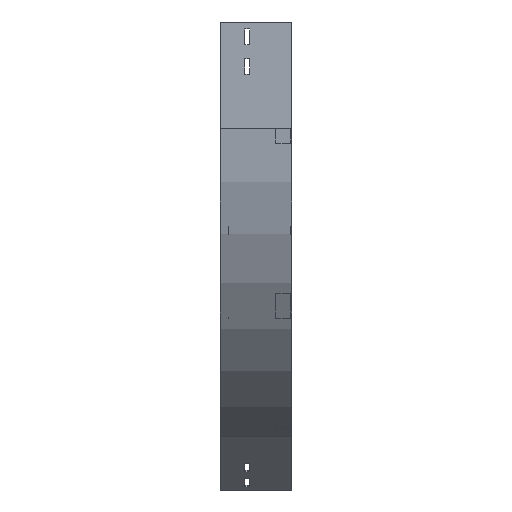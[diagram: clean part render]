
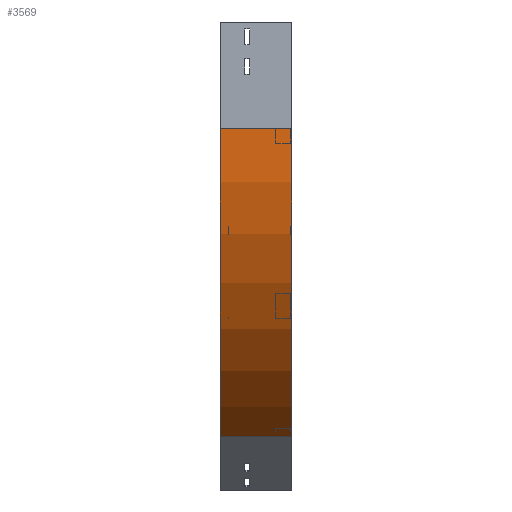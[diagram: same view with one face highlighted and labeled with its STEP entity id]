
A CAD part, left-side view. The second image highlights one B-rep face of the part: STEP entity #3569.
In plain terms, the highlighted cylindrical face has radius 500 mm (diameter 1000 mm), a partial arc.
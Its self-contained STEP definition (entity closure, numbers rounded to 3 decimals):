
#121 = CYLINDRICAL_SURFACE ( 'NONE', #1778, 500. ) ;
#159 = VERTEX_POINT ( 'NONE', #1616 ) ;
#388 = ORIENTED_EDGE ( 'NONE', *, *, #2956, .T. ) ;
#535 = ORIENTED_EDGE ( 'NONE', *, *, #1843, .F. ) ;
#587 = CIRCLE ( 'NONE', #2889, 500. ) ;
#597 = EDGE_CURVE ( 'NONE', #2834, #159, #1311, .T. ) ;
#812 = DIRECTION ( 'NONE',  ( 0., 0., -1. ) ) ;
#942 = DIRECTION ( 'NONE',  ( -1., 0., 0. ) ) ;
#990 = DIRECTION ( 'NONE',  ( 0., -1., 0. ) ) ;
#1155 = DIRECTION ( 'NONE',  ( 0., -1., 0. ) ) ;
#1238 = DIRECTION ( 'NONE',  ( 0., -1., 0. ) ) ;
#1311 = LINE ( 'NONE', #1630, #2674 ) ;
#1616 = CARTESIAN_POINT ( 'NONE',  ( 0., 0., -150. ) ) ;
#1630 = CARTESIAN_POINT ( 'NONE',  ( 0., 0., -150. ) ) ;
#1778 = AXIS2_PLACEMENT_3D ( 'NONE', #3100, #2229, #812 ) ;
#1779 = VERTEX_POINT ( 'NONE', #3761 ) ;
#1826 = AXIS2_PLACEMENT_3D ( 'NONE', #2819, #1238, #942 ) ;
#1843 = EDGE_CURVE ( 'NONE', #159, #3791, #587, .T. ) ;
#1849 = EDGE_LOOP ( 'NONE', ( #535, #3697, #388, #2813 ) ) ;
#2198 = DIRECTION ( 'NONE',  ( 0., -1., 0. ) ) ;
#2229 = DIRECTION ( 'NONE',  ( 0., -1., 0. ) ) ;
#2348 = DIRECTION ( 'NONE',  ( -1., 0., 0. ) ) ;
#2596 = FACE_OUTER_BOUND ( 'NONE', #1849, .T. ) ;
#2674 = VECTOR ( 'NONE', #2198, 1000. ) ;
#2813 = ORIENTED_EDGE ( 'NONE', *, *, #3552, .T. ) ;
#2819 = CARTESIAN_POINT ( 'NONE',  ( 500., 100., -150. ) ) ;
#2834 = VERTEX_POINT ( 'NONE', #3637 ) ;
#2889 = AXIS2_PLACEMENT_3D ( 'NONE', #3824, #1155, #2348 ) ;
#2956 = EDGE_CURVE ( 'NONE', #2834, #1779, #3505, .T. ) ;
#3029 = CARTESIAN_POINT ( 'NONE',  ( 250., 0., -583.013 ) ) ;
#3081 = CARTESIAN_POINT ( 'NONE',  ( 250., 0., -583.013 ) ) ;
#3100 = CARTESIAN_POINT ( 'NONE',  ( 500., 0., -150. ) ) ;
#3411 = LINE ( 'NONE', #3081, #3636 ) ;
#3505 = CIRCLE ( 'NONE', #1826, 500. ) ;
#3552 = EDGE_CURVE ( 'NONE', #1779, #3791, #3411, .T. ) ;
#3569 = ADVANCED_FACE ( 'NONE', ( #2596 ), #121, .T. ) ;
#3636 = VECTOR ( 'NONE', #990, 1000. ) ;
#3637 = CARTESIAN_POINT ( 'NONE',  ( 0., 100., -150. ) ) ;
#3697 = ORIENTED_EDGE ( 'NONE', *, *, #597, .F. ) ;
#3761 = CARTESIAN_POINT ( 'NONE',  ( 250., 100., -583.013 ) ) ;
#3791 = VERTEX_POINT ( 'NONE', #3029 ) ;
#3824 = CARTESIAN_POINT ( 'NONE',  ( 500., 0., -150. ) ) ;
